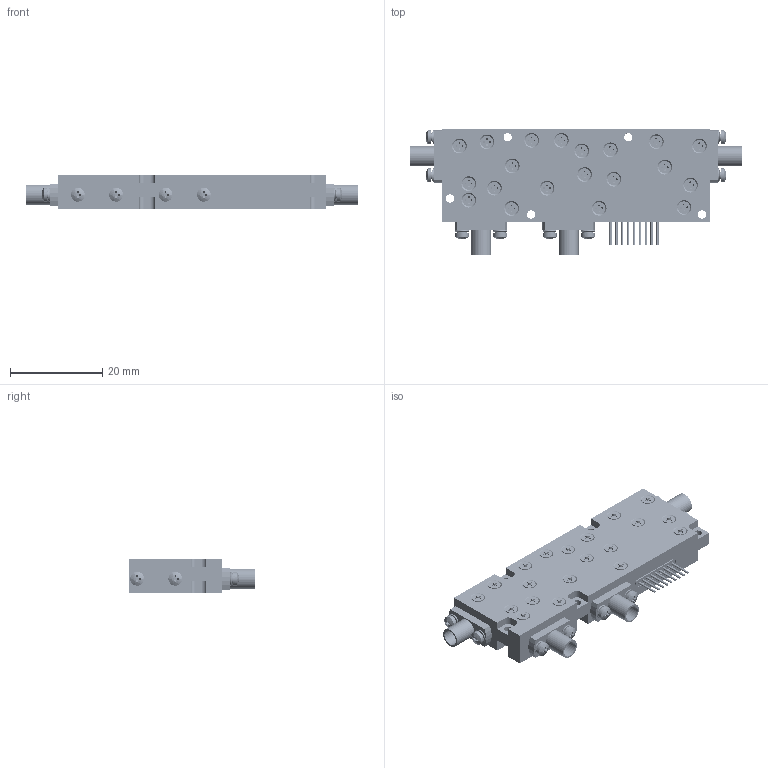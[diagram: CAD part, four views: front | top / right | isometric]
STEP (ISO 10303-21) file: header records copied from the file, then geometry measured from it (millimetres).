
FILE_DESCRIPTION (( 'STEP AP203' ), '1' );
FILE_NAME ('蚾饜极1.STEP', '2026-08-31T13:27:33', ( 'Windows User' ), ( 'P R C' ), 'SwSTEP 2.0', 'SolidWorks 2013', '' );
FILE_SCHEMA (( 'CONFIG_CONTROL_DESIGN' ));
Length unit declared in the file: millimetre
Products named in the file (9): 郪磁蹟隊M1.6X4; SMP(M)-JYD1-1S; 裔啣; NY251638; 蚾饜极1; LP9-1.27-2013; 褲极; 麥芛蹟隊M1.6X4; SMP-JFD2
Assembly tree (41 placements, depth 2):
  蚾饜极1
    褲极
    裔啣
    LP9-1.27-2013
    NY251638  x4
    SMP(M)-JYD1-1S  x2
    SMP-JFD2  x4
    郪磁蹟隊M1.6X4  x8
    麥芛蹟隊M1.6X4  x20
Bounding box: 72.1 x 27.2 x 7.4 mm (x, y, z)
Volume: 8877.2 mm3; surface area: 9791.3 mm2
Topology: 57 solids, 57 shells, 2540 faces, 6642 edges, 4282 vertices
Faces by surface type: cylinder 1540, plane 680, cone 156, bspline 100, torus 64
Entity records: 27049 total; most frequent: CARTESIAN_POINT 7957, DIRECTION 3789, ORIENTED_EDGE 3470, EDGE_CURVE 1735, AXIS2_PLACEMENT_3D 1471, VERTEX_POINT 1125, EDGE_LOOP 876, VECTOR 847
